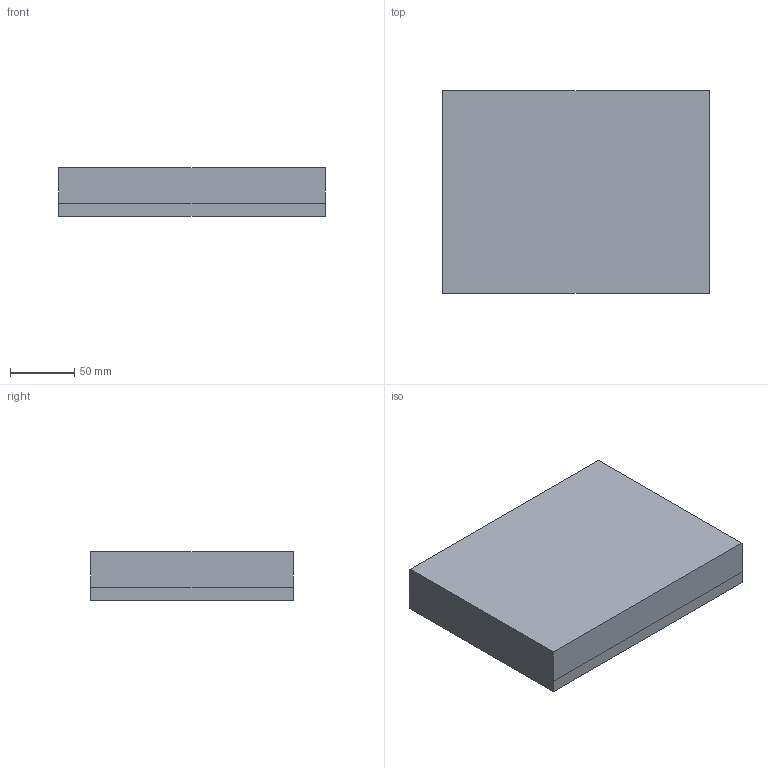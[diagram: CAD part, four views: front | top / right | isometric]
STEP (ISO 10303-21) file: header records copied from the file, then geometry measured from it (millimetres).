
FILE_DESCRIPTION(('CATIA V5 STEP Exchange'),'2;1');
FILE_NAME('C:\_Andres\UNIVERSIDAD\IQS\ASIGNATURAS\DAO\Controles\1920\c2\c2-Duaso_Carbonell_Mariona.stp','2020-02-10T15:38:00+00:00',('none'),('none'),'CATIA Version 5 Release 19 SP 3 (IN-10)','CATIA V5 STEP AP203','none');
FILE_SCHEMA(('CONFIG_CONTROL_DESIGN'));
Length unit declared in the file: millimetre
Products named in the file (1): c2-Duaso_Carbonell_Mariona
Bounding box: 208 x 158 x 38 mm (x, y, z)
Surface area: 231725.7 mm2
Topology: 3 solids, 3 shells, 103 faces, 232 edges, 128 vertices
Faces by surface type: cylinder 40, plane 27, bspline 24, sphere 12
Entity records: 3348 total; most frequent: CARTESIAN_POINT 1636, ORIENTED_EDGE 440, DIRECTION 224, EDGE_CURVE 164, EDGE_LOOP 110, ADVANCED_FACE 103, FACE_OUTER_BOUND 103, AXIS2_PLACEMENT_3D 96
